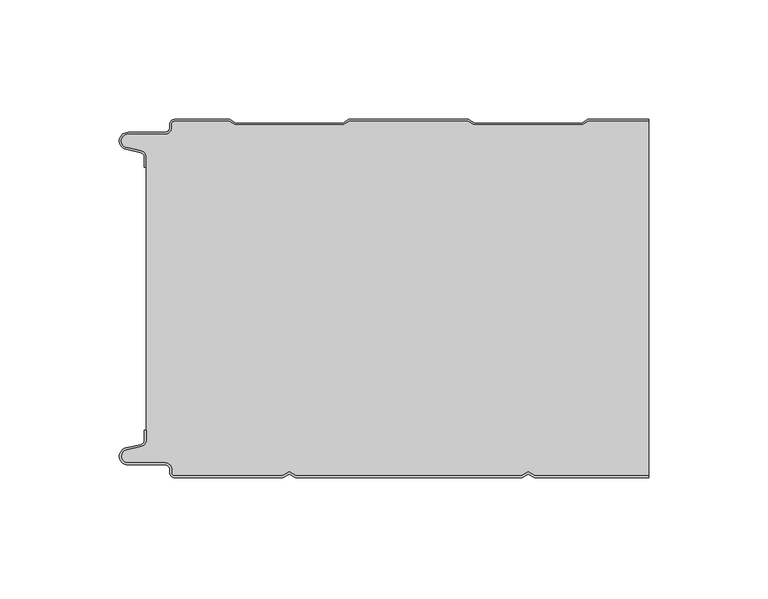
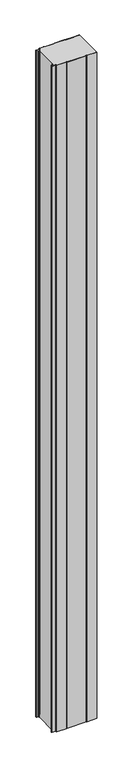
"""IFC4 building model written with IfcOpenShell, lengths in millimetres: plate geometry, PMH_Curtain-Panel_Perfil-Estándar : ACH_PMH_Panel-Acústico-Sectorización_150M."""

from ifc_helpers import new_model, si_unit, point, frame_2d, origin, origin_with_axes, place, context, project, spatial, polyline, circle_curve, trimmed, segment, composite_curve, outline, extrude, source, transform, mapped, element, save


def plate_ffdd8b7e(model_context):
    return source(origin(), model_context, "Body", "SweptSolid", [
        extrude(outline(composite_curve([segment(polyline([(-100.0, 15.878557), (-100.0, 20.0), (-99.2, 20.0), (-99.2, 15.878557)]), True, "CONTINUOUS"), segment(trimmed(circle_curve(frame_2d((-102.0, 15.878557)), 2.8), [point((-99.2, 15.878557))], [point((-101.370137, 13.1503208))], False, "CARTESIAN"), True, "CONTINUOUS"), segment(polyline([(-101.370137, 13.1503208), (-107.529863, 11.728236)]), True, "CONTINUOUS"), segment(trimmed(circle_curve(frame_2d((-106.9, 9.0)), 2.8), [point((-107.529863, 11.728236))], [point((-106.9, 6.2))], True, "CARTESIAN"), True, "CONTINUOUS"), segment(polyline([(-106.9, 6.2), (-91.4, 6.2)]), True, "CONTINUOUS"), segment(trimmed(circle_curve(frame_2d((-91.4, 3.4)), 2.8), [point((-91.4, 6.2))], [point((-88.6, 3.4))], False, "CARTESIAN"), True, "CONTINUOUS"), segment(polyline([(-88.6, 3.4), (-88.6, 2.0)]), True, "CONTINUOUS"), segment(trimmed(circle_curve(frame_2d((-87.4, 2.0)), 1.2), [point((-88.6, 2.0))], [point((-87.4, 0.8))], True, "CARTESIAN"), True, "CONTINUOUS"), segment(polyline([(-87.4, 0.8), (-42.3143588, 0.8), (-39.4, 2.482606), (-36.4856412, 0.8), (57.6856412, 0.8), (60.6, 2.482606), (63.5143588, 0.8), (111.0, 0.8), (111.0, 0.0), (63.2999995, 0.0), (60.6, 1.5588455), (57.9000005, 0.0), (-36.7000005, 0.0), (-39.4, 1.5588455), (-42.0999995, 0.0), (-87.4, 0.0)]), True, "CONTINUOUS"), segment(trimmed(circle_curve(frame_2d((-87.4, 2.0)), 2.0), [point((-87.4, 0.0))], [point((-89.4, 2.0))], False, "CARTESIAN"), True, "CONTINUOUS"), segment(polyline([(-89.4, 2.0), (-89.4, 3.4)]), True, "CONTINUOUS"), segment(trimmed(circle_curve(frame_2d((-91.4, 3.4)), 2.0), [point((-89.4, 3.4))], [point((-91.4, 5.4))], True, "CARTESIAN"), True, "CONTINUOUS"), segment(polyline([(-91.4, 5.4), (-106.9, 5.4)]), True, "CONTINUOUS"), segment(trimmed(circle_curve(frame_2d((-106.9, 9.0)), 3.6), [point((-106.9, 5.4))], [point((-107.7098239, 12.5077322))], False, "CARTESIAN"), True, "CONTINUOUS"), segment(polyline([(-107.7098239, 12.5077322), (-101.5500979, 13.929817)]), True, "CONTINUOUS"), segment(trimmed(circle_curve(frame_2d((-102.0, 15.878557)), 2.0), [point((-101.5500979, 13.929817))], [point((-100.0, 15.878557))], True, "CARTESIAN"), True, "CONTINUOUS")], self_intersect=False)), origin_with_axes(), (0.0, 0.0, 1.0), 3500.0),
        extrude(outline(composite_curve([segment(trimmed(circle_curve(frame_2d((-102.0, 134.121443)), 2.8), [point((-99.2, 134.121443))], [point((-101.370137, 136.8496792))], True, "CARTESIAN"), True, "CONTINUOUS"), segment(polyline([(-101.370137, 136.8496792), (-107.529863, 138.271764)]), True, "CONTINUOUS"), segment(trimmed(circle_curve(frame_2d((-106.9, 141.0)), 2.7999998), [point((-107.529863, 138.271764))], [point((-106.9, 143.7999998))], False, "CARTESIAN"), True, "CONTINUOUS"), segment(polyline([(-106.9, 143.7999998), (-91.4, 143.7999998)]), True, "CONTINUOUS"), segment(trimmed(circle_curve(frame_2d((-91.4, 146.5999998)), 2.8), [point((-91.4, 143.7999998))], [point((-88.6, 146.5999998))], True, "CARTESIAN"), True, "CONTINUOUS"), segment(polyline([(-88.6, 146.5999998), (-88.6, 148.0)]), True, "CONTINUOUS"), segment(trimmed(circle_curve(frame_2d((-87.4, 148.0)), 1.2), [point((-88.6, 148.0))], [point((-87.4, 149.2))], False, "CARTESIAN"), True, "CONTINUOUS"), segment(polyline([(-87.4, 149.2), (-64.6143592, 149.2), (-62.0162816, 147.7), (-16.7875654, 147.7), (-14.1894878, 149.2), (35.3856408, 149.2), (37.9837184, 147.7), (83.2124346, 147.7), (85.8105122, 149.2), (111.0, 149.2), (111.0, 0.8), (63.5143588, 0.8), (60.5999999, 2.482606), (57.6856411, 0.8), (-36.4856412, 0.8), (-39.4000001, 2.482606), (-42.3143589, 0.8), (-87.4000001, 0.8)]), True, "CONTINUOUS"), segment(trimmed(circle_curve(frame_2d((-87.4000001, 2.0)), 1.2), [point((-87.4000001, 0.8))], [point((-88.6000001, 2.0))], False, "CARTESIAN"), True, "CONTINUOUS"), segment(polyline([(-88.6000001, 2.0), (-88.6000001, 3.4)]), True, "CONTINUOUS"), segment(trimmed(circle_curve(frame_2d((-91.4000001, 3.4)), 2.8), [point((-88.6000001, 3.4))], [point((-91.4000001, 6.2))], True, "CARTESIAN"), True, "CONTINUOUS"), segment(polyline([(-91.4000001, 6.2), (-106.9, 6.2)]), True, "CONTINUOUS"), segment(trimmed(circle_curve(frame_2d((-106.9, 9.0)), 2.8), [point((-106.9, 6.2))], [point((-107.5298631, 11.7282362))], False, "CARTESIAN"), True, "CONTINUOUS"), segment(polyline([(-107.5298631, 11.7282362), (-101.370137, 13.1503212)]), True, "CONTINUOUS"), segment(trimmed(circle_curve(frame_2d((-102.0, 15.8785573)), 2.8), [point((-101.370137, 13.1503212))], [point((-99.2, 15.8785573))], True, "CARTESIAN"), True, "CONTINUOUS"), segment(polyline([(-99.2, 15.8785573), (-99.2, 134.121443)]), True, "CONTINUOUS")], self_intersect=False)), origin_with_axes(), (0.0, 0.0, 1.0), 3500.0),
        extrude(outline(composite_curve([segment(polyline([(-87.4, 150.0), (-64.3999999, 150.0), (-61.8019223, 148.5), (-17.0019247, 148.5), (-14.4038471, 150.0), (35.6000001, 150.0), (38.1980777, 148.5), (82.9980753, 148.5), (85.5961529, 150.0), (111.0, 150.0), (111.0, 149.2), (85.8105122, 149.2), (83.2124346, 147.7), (37.9837184, 147.7), (35.3856408, 149.2), (-14.1894878, 149.2), (-16.7875654, 147.7), (-62.0162816, 147.7), (-64.6143592, 149.2), (-87.4, 149.2)]), True, "CONTINUOUS"), segment(trimmed(circle_curve(frame_2d((-87.4, 148.0)), 1.2), [point((-87.4, 149.2))], [point((-88.6, 148.0))], True, "CARTESIAN"), True, "CONTINUOUS"), segment(polyline([(-88.6, 148.0), (-88.6, 146.6)]), True, "CONTINUOUS"), segment(trimmed(circle_curve(frame_2d((-91.4, 146.6)), 2.8), [point((-88.6, 146.6))], [point((-91.4, 143.8))], False, "CARTESIAN"), True, "CONTINUOUS"), segment(polyline([(-91.4, 143.8), (-106.9, 143.8)]), True, "CONTINUOUS"), segment(trimmed(circle_curve(frame_2d((-106.9, 141.0)), 2.8), [point((-106.9, 143.8))], [point((-107.529863, 138.2717638))], True, "CARTESIAN"), True, "CONTINUOUS"), segment(polyline([(-107.529863, 138.2717638), (-101.370137, 136.849679)]), True, "CONTINUOUS"), segment(trimmed(circle_curve(frame_2d((-102.0, 134.121443)), 2.8), [point((-101.370137, 136.849679))], [point((-99.2, 134.121443))], False, "CARTESIAN"), True, "CONTINUOUS"), segment(polyline([(-99.2, 134.121443), (-99.2, 130.0), (-100.0, 130.0), (-100.0, 134.121443)]), True, "CONTINUOUS"), segment(trimmed(circle_curve(frame_2d((-102.0, 134.121443)), 2.0), [point((-100.0, 134.121443))], [point((-101.5500978, 136.0701831))], True, "CARTESIAN"), True, "CONTINUOUS"), segment(polyline([(-101.5500978, 136.0701831), (-107.7098239, 137.492268)]), True, "CONTINUOUS"), segment(trimmed(circle_curve(frame_2d((-106.9, 141.0)), 3.6), [point((-107.7098239, 137.492268))], [point((-106.9, 144.6))], False, "CARTESIAN"), True, "CONTINUOUS"), segment(polyline([(-106.9, 144.6), (-91.4, 144.6)]), True, "CONTINUOUS"), segment(trimmed(circle_curve(frame_2d((-91.4, 146.6)), 2.0), [point((-91.4, 144.6))], [point((-89.4, 146.6))], True, "CARTESIAN"), True, "CONTINUOUS"), segment(polyline([(-89.4, 146.6), (-89.4, 148.0)]), True, "CONTINUOUS"), segment(trimmed(circle_curve(frame_2d((-87.4, 148.0)), 2.0), [point((-89.4, 148.0))], [point((-87.4, 150.0))], False, "CARTESIAN"), True, "CONTINUOUS")], self_intersect=False)), origin_with_axes(), (0.0, 0.0, 1.0), 3500.0),
    ])


if __name__ == "__main__":
    model = new_model("IFC4")
    model_context = context("Model", 3, world=origin())
    ifc_project = project(units=[si_unit("LENGTHUNIT", "METRE", prefix="MILLI")], contexts=[model_context])
    site = spatial("IfcSite", under=ifc_project)
    building = spatial("IfcBuilding", under=site)
    placement = place(None, origin())
    plate_shape = plate_ffdd8b7e(model_context)
    element("IfcPlate", 1, ObjectType="PMH_Curtain-Panel_Perfil-Estándar : ACH_PMH_Panel-Acústico-Sectorización_150M", at=placement, inside=building, context=model_context, shape_type="MappedRepresentation", body=[
        mapped(plate_shape, transform((0.0, 0.0, 0.0), x_axis=(1.0, 0.0, 0.0), y_axis=(0.0, 1.0, 0.0), z_axis=(0.0, 0.0, 1.0))),
    ])
    save(model, "model.ifc")
